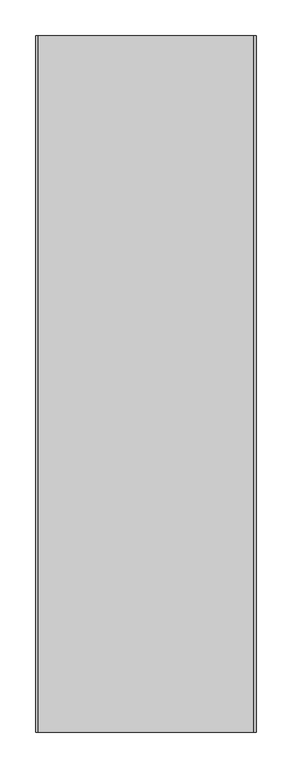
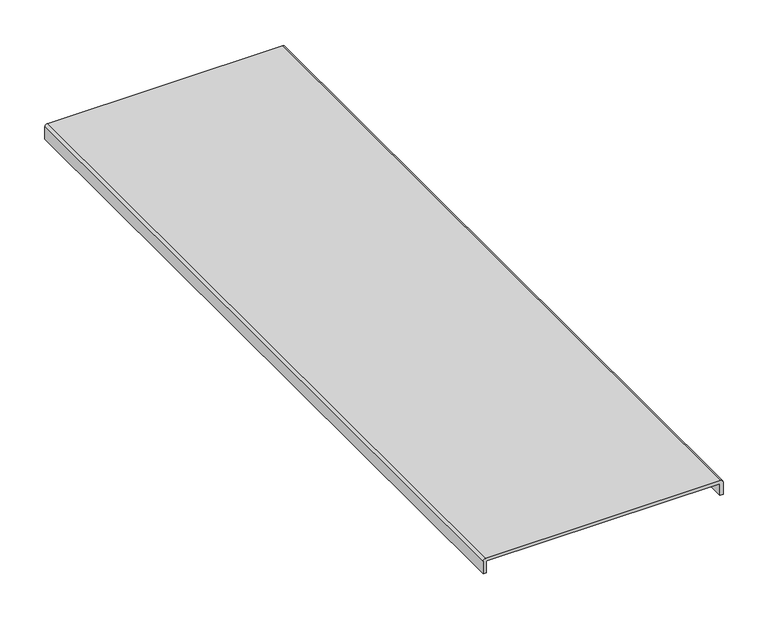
"""IFC4 building model written with IfcOpenShell, lengths in millimetres: proxy geometry, Cable_Tray_Cover_TWT_Basorcanal : Basorcanal TWT 300."""

from ifc_helpers import new_model, si_unit, point, frame, frame_2d, origin, place, context, project, spatial, polyline, circle_curve, trimmed, segment, composite_curve, outline, extrude, source, transform, mapped, element, save


def generic_models_c4d3e10e(model_context):
    return source(origin(), model_context, "Body", "SweptSolid", [
        extrude(outline(composite_curve([segment(trimmed(circle_curve(frame_2d((-0.5, -149.5)), 0.5), [point((-0.5, -150.0))], [point((0.0, -149.5))], True, "CARTESIAN"), True, "CONTINUOUS"), segment(polyline([(0.0, -149.5), (0.0, 149.5)]), True, "CONTINUOUS"), segment(trimmed(circle_curve(frame_2d((-0.5, 149.5)), 0.5), [point((0.0, 149.5))], [point((-0.5, 150.0))], True, "CARTESIAN"), True, "CONTINUOUS"), segment(polyline([(-0.5, 150.0), (-16.0, 150.0), (-16.0, 154.0), (0.9268922, 154.0)]), True, "CONTINUOUS"), segment(trimmed(circle_curve(frame_2d((0.9268922, 150.9268922)), 3.0731078), [point((0.9268922, 154.0))], [point((4.0, 150.9268922))], False, "CARTESIAN"), True, "CONTINUOUS"), segment(polyline([(4.0, 150.9268922), (4.0, -150.6770801)]), True, "CONTINUOUS"), segment(trimmed(circle_curve(frame_2d((0.6770801, -150.6770801)), 3.3229199), [point((4.0, -150.6770801))], [point((0.6770801, -154.0))], False, "CARTESIAN"), True, "CONTINUOUS"), segment(polyline([(0.6770801, -154.0), (-16.0, -154.0), (-16.0, -150.0), (-0.5, -150.0)]), True, "CONTINUOUS")], self_intersect=False)), frame((0.0, 0.0, 0.0), z_axis=(0.0, 1.0, 0.0), x_axis=(0.0, 0.0, 1.0)), (0.0, 0.0, 1.0), 973.8),
    ])


if __name__ == "__main__":
    model = new_model("IFC4")
    model_context = context("Model", 3, world=origin())
    ifc_project = project(units=[si_unit("LENGTHUNIT", "METRE", prefix="MILLI")], contexts=[model_context])
    site = spatial("IfcSite", under=ifc_project)
    building = spatial("IfcBuilding", under=site)
    placement = place(None, origin())
    generic_models_shape = generic_models_c4d3e10e(model_context)
    element("IfcBuildingElementProxy", 1, Name="Cable_Tray_Cover_TWT_Basorcanal : Basorcanal TWT 300", ObjectType="Cable_Tray_Cover_TWT_Basorcanal : Basorcanal TWT 300", at=placement, inside=building, context=model_context, shape_type="MappedRepresentation", body=[
        mapped(generic_models_shape, transform((0.0, 0.0, 0.0), x_axis=(1.0, 0.0, 0.0), y_axis=(0.0, 1.0, 0.0), z_axis=(0.0, 0.0, 1.0))),
    ])
    save(model, "model.ifc")
